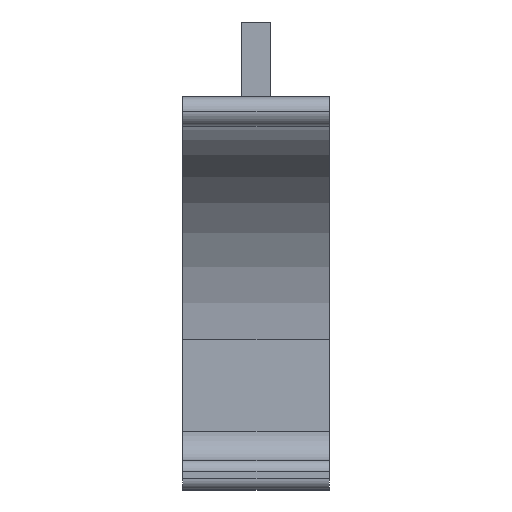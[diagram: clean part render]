
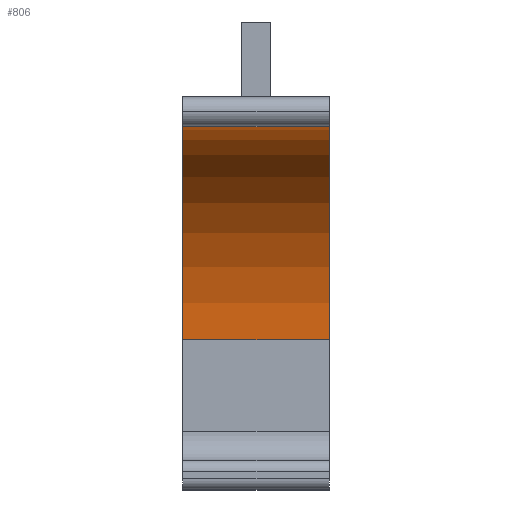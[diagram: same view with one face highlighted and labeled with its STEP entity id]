
A CAD part, top view. The second image highlights one B-rep face of the part: STEP entity #806.
In plain terms, the highlighted cylindrical face has radius 29 mm (diameter 58 mm), a partial arc.
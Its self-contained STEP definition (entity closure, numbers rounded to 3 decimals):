
#83=FACE_OUTER_BOUND('',#129,.T.);
#129=EDGE_LOOP('',(#697,#698,#699,#700));
#220=LINE('',#1302,#316);
#221=LINE('',#1305,#317);
#316=VECTOR('',#1050,10.);
#317=VECTOR('',#1053,10.);
#344=CIRCLE('',#845,29.);
#346=CIRCLE('',#874,29.);
#369=VERTEX_POINT('',#1158);
#370=VERTEX_POINT('',#1160);
#415=VERTEX_POINT('',#1301);
#416=VERTEX_POINT('',#1303);
#446=EDGE_CURVE('',#369,#370,#344,.T.);
#515=EDGE_CURVE('',#415,#369,#220,.T.);
#516=EDGE_CURVE('',#416,#415,#346,.T.);
#517=EDGE_CURVE('',#370,#416,#221,.T.);
#697=ORIENTED_EDGE('',*,*,#446,.F.);
#698=ORIENTED_EDGE('',*,*,#515,.F.);
#699=ORIENTED_EDGE('',*,*,#516,.F.);
#700=ORIENTED_EDGE('',*,*,#517,.F.);
#772=CYLINDRICAL_SURFACE('',#873,29.);
#806=ADVANCED_FACE('',(#83),#772,.F.);
#845=AXIS2_PLACEMENT_3D('',#1161,#925,#926);
#873=AXIS2_PLACEMENT_3D('',#1300,#1048,#1049);
#874=AXIS2_PLACEMENT_3D('',#1304,#1051,#1052);
#925=DIRECTION('center_axis',(1.,0.,0.));
#926=DIRECTION('ref_axis',(0.,1.,0.));
#1048=DIRECTION('center_axis',(-1.,0.,0.));
#1049=DIRECTION('ref_axis',(0.,1.,0.));
#1050=DIRECTION('',(-1.,0.,0.));
#1051=DIRECTION('center_axis',(-1.,0.,0.));
#1052=DIRECTION('ref_axis',(0.,1.,0.));
#1053=DIRECTION('',(1.,0.,0.));
#1158=CARTESIAN_POINT('',(-10.,-33.,23.91));
#1160=CARTESIAN_POINT('',(-10.,-4.,52.91));
#1161=CARTESIAN_POINT('Origin',(-10.,-33.,52.91));
#1300=CARTESIAN_POINT('Origin',(-10.,-33.,52.91));
#1301=CARTESIAN_POINT('',(10.,-33.,23.91));
#1302=CARTESIAN_POINT('',(-10.,-33.,23.91));
#1303=CARTESIAN_POINT('',(10.,-4.,52.91));
#1304=CARTESIAN_POINT('Origin',(10.,-33.,52.91));
#1305=CARTESIAN_POINT('',(-10.,-4.,52.91));
